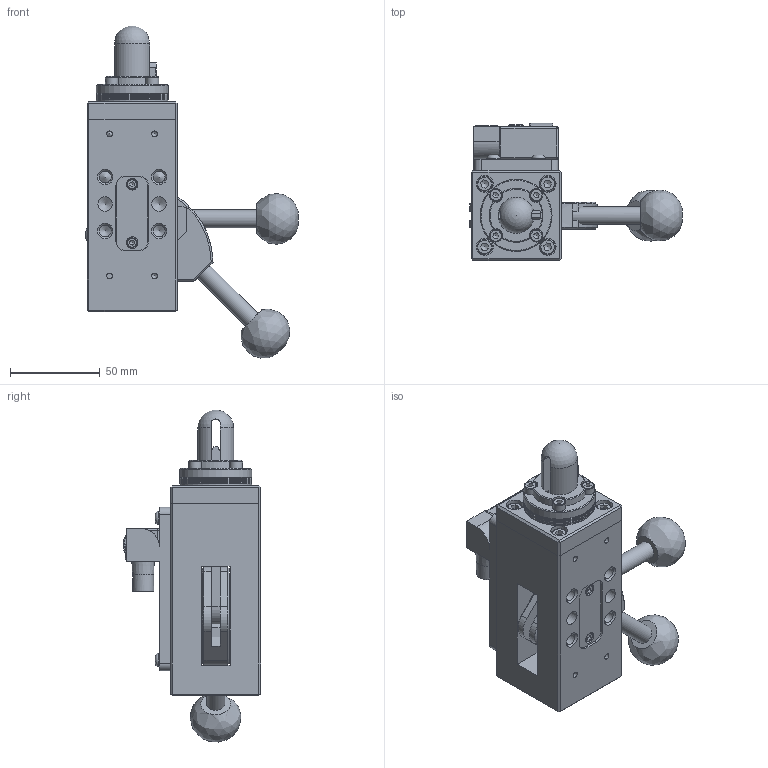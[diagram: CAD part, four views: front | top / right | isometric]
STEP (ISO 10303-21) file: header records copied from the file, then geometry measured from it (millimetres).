
FILE_DESCRIPTION(/* description */ (''),/* implementation_level */ '2;1');
FILE_NAME(/* name */ 'S:\Tom\INVENTOR FILES\AUTOMOTIVE\UNDERBODY CLAMPS\XPCB\SIMPLIFIED MODELS\STEP\XPCB-20-02-ES1-R.stp',/* time_stamp */ '2021-06-08T10:16:09+01:00',/* author */ ('RWilson'),/* organization */ (''),/* preprocessor_version */ 'ST-DEVELOPER v18.1',/* originating_system */ 'Autodesk Inventor 2021',/* authorisation */ '');
FILE_SCHEMA (('AUTOMOTIVE_DESIGN { 1 0 10303 214 3 1 1 }'));
Length unit declared in the file: millimetre
Products named in the file (10): XPCB-20-02-ES1-R; XPCB - BODY; XPCB - HANDLE; XPCB - TOP PLATE; XPCB - 1MM SHIM; XPCB - 0.5MM SHIM; XPCB - 20MM CLAMPING RING & PIN; XPCB - 20MM HOOK; XPCB - BLANKING COVER; XPCB - SWITCH ASSEMBLY
Assembly tree (13 placements, depth 2):
  XPCB-20-02-ES1-R
    XPCB - BODY
    XPCB - HANDLE  x2
    XPCB - TOP PLATE
    XPCB - 0.5MM SHIM  x2
    XPCB - 1MM SHIM  x3
    XPCB - 20MM CLAMPING RING & PIN
    XPCB - 20MM HOOK
    XPCB - BLANKING COVER
    XPCB - SWITCH ASSEMBLY
Bounding box: 118.37 x 76.31 x 184.64 mm (x, y, z)
Volume: 376137.9 mm3; surface area: 118125.9 mm2
Topology: 13 solids, 27 shells, 834 faces, 2161 edges, 1402 vertices
Faces by surface type: plane 381, cylinder 259, cone 124, torus 25, bspline 24, sphere 21
Full cylindrical faces by diameter (mm): 0.7 x8, 1.7 x1, 1.8 x2, 2 x1, 2.459 x6, 2.5 x3, 2.8 x2, 3 x4, 3.2 x2, 3.242 x8, 4 x8, 4.134 x1, 4.3 x2, 4.5 x4, 4.917 x3, 5 x4, 5.3 x1, 5.5 x2, 6 x3, 6.5 x2, 6.6 x3, 6.647 x12, 7 x4, 7.6 x4, 8 x6, 8.376 x2, 8.5 x5, 9 x3, 9.5 x4, 10 x5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
Entity records: 24185 total; most frequent: CARTESIAN_POINT 4986, DIRECTION 4119, ORIENTED_EDGE 3844, EDGE_CURVE 1922, AXIS2_PLACEMENT_3D 1596, VERTEX_POINT 1300, LINE 927, VECTOR 927
